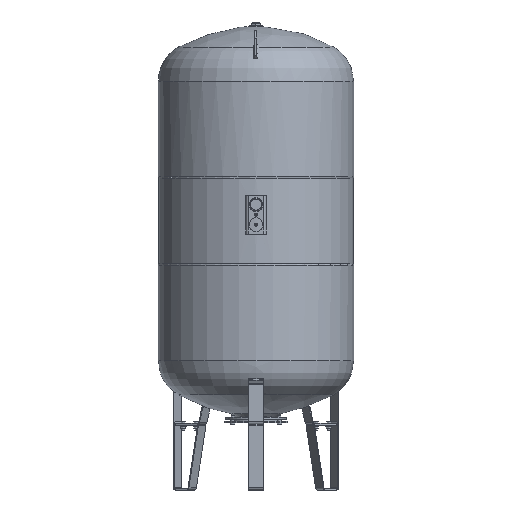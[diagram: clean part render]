
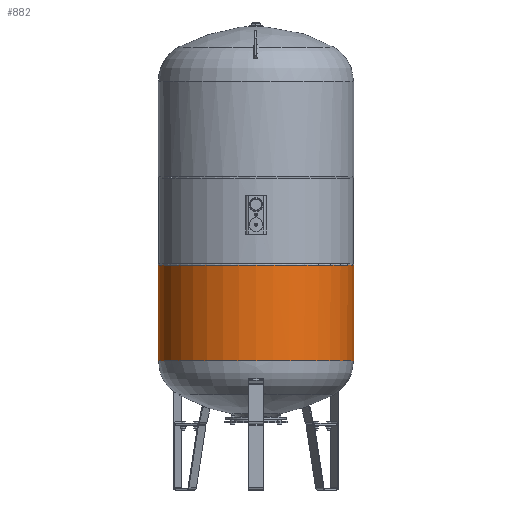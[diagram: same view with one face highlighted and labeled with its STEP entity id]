
A CAD part, front view. The second image highlights one B-rep face of the part: STEP entity #882.
In plain terms, the highlighted cylindrical face has radius 390 mm (diameter 780 mm), a full revolution.
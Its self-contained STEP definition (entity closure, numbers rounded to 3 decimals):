
#882=ADVANCED_FACE('',(#7798,#7800),#7802,.T.);
#7798=FACE_BOUND('',#7799,.T.);
#7799=EDGE_LOOP('',(#27692,#27693,#27694));
#7800=FACE_BOUND('',#7801,.T.);
#7801=EDGE_LOOP('',(#27695,#27696,#27697));
#7802=CYLINDRICAL_SURFACE('',#7803,390.);
#7803=AXIS2_PLACEMENT_3D('',#7804,#7805,#7806);
#7804=CARTESIAN_POINT('',(0.,0.,-364.773));
#7805=DIRECTION('',(0.,0.,-1.));
#7806=DIRECTION('',(0.,-1.,0.));
#27692=ORIENTED_EDGE('',*,*,#31560,.F.);
#27693=ORIENTED_EDGE('',*,*,#31561,.F.);
#27694=ORIENTED_EDGE('',*,*,#31562,.F.);
#27695=ORIENTED_EDGE('',*,*,#31563,.T.);
#27696=ORIENTED_EDGE('',*,*,#31564,.T.);
#27697=ORIENTED_EDGE('',*,*,#31565,.T.);
#31560=EDGE_CURVE('',#33890,#33891,#33892,.T.);
#31561=EDGE_CURVE('',#33893,#33890,#33894,.T.);
#31562=EDGE_CURVE('',#33891,#33893,#33895,.T.);
#31563=EDGE_CURVE('',#33896,#33897,#33898,.T.);
#31564=EDGE_CURVE('',#33897,#33899,#33900,.T.);
#31565=EDGE_CURVE('',#33899,#33896,#33901,.T.);
#33890=VERTEX_POINT('',#39558);
#33891=VERTEX_POINT('',#39559);
#33892=CIRCLE('',#39560,390.);
#33893=VERTEX_POINT('',#39564);
#33894=CIRCLE('',#39565,390.);
#33895=CIRCLE('',#39569,390.);
#33896=VERTEX_POINT('',#39573);
#33897=VERTEX_POINT('',#39574);
#33898=CIRCLE('',#39575,390.);
#33899=VERTEX_POINT('',#39579);
#33900=CIRCLE('',#39580,390.);
#33901=CIRCLE('',#39584,390.);
#39558=CARTESIAN_POINT('',(0.,390.,-556.258));
#39559=CARTESIAN_POINT('',(15.774,389.681,-556.258));
#39560=AXIS2_PLACEMENT_3D('',#39561,#39562,#39563);
#39561=CARTESIAN_POINT('',(0.,0.,-556.258));
#39562=DIRECTION('',(0.,0.,-1.));
#39563=DIRECTION('',(0.,1.,0.));
#39564=CARTESIAN_POINT('',(0.,-390.,-556.258));
#39565=AXIS2_PLACEMENT_3D('',#39566,#39567,#39568);
#39566=CARTESIAN_POINT('',(0.,0.,-556.258));
#39567=DIRECTION('',(0.,0.,-1.));
#39568=DIRECTION('',(0.,-1.,0.));
#39569=AXIS2_PLACEMENT_3D('',#39570,#39571,#39572);
#39570=CARTESIAN_POINT('',(0.,0.,-556.258));
#39571=DIRECTION('',(0.,0.,-1.));
#39572=DIRECTION('',(0.04,0.999,0.));
#39573=CARTESIAN_POINT('',(0.,390.,-173.962));
#39574=CARTESIAN_POINT('',(0.,-390.,-173.962));
#39575=AXIS2_PLACEMENT_3D('',#39576,#39577,#39578);
#39576=CARTESIAN_POINT('',(0.,0.,-173.962));
#39577=DIRECTION('',(0.,0.,-1.));
#39578=DIRECTION('',(0.,1.,0.));
#39579=CARTESIAN_POINT('',(-389.998,1.386,-173.962));
#39580=AXIS2_PLACEMENT_3D('',#39581,#39582,#39583);
#39581=CARTESIAN_POINT('',(0.,0.,-173.962));
#39582=DIRECTION('',(0.,0.,-1.));
#39583=DIRECTION('',(0.,-1.,0.));
#39584=AXIS2_PLACEMENT_3D('',#39585,#39586,#39587);
#39585=CARTESIAN_POINT('',(0.,0.,-173.962));
#39586=DIRECTION('',(0.,0.,-1.));
#39587=DIRECTION('',(-1.,0.004,0.));
